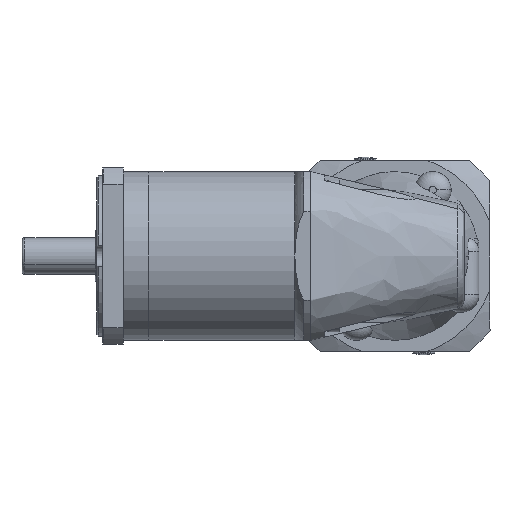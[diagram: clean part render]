
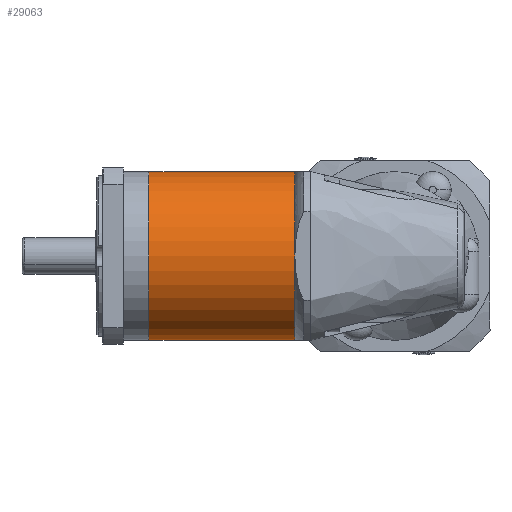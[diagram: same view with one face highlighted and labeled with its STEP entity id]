
A CAD part, front view. The second image highlights one B-rep face of the part: STEP entity #29063.
In plain terms, the highlighted cylindrical face has radius 57.5 mm (diameter 115 mm), a partial arc.
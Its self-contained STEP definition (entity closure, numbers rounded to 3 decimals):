
#216 = LINE ( 'NONE', #34504, #13597 ) ;
#3079 = VERTEX_POINT ( 'NONE', #37873 ) ;
#6556 = CIRCLE ( 'NONE', #39675, 57.5 ) ;
#6986 = DIRECTION ( 'NONE',  ( 1., 0., 0. ) ) ;
#8694 = VERTEX_POINT ( 'NONE', #15283 ) ;
#8787 = EDGE_CURVE ( 'NONE', #33205, #20903, #34288, .T. ) ;
#9399 = EDGE_LOOP ( 'NONE', ( #17016, #30756, #12023, #16633 ) ) ;
#9412 = DIRECTION ( 'NONE',  ( -1., 0., 0. ) ) ;
#10463 = CARTESIAN_POINT ( 'NONE',  ( 35.5, 0., 57.5 ) ) ;
#12023 = ORIENTED_EDGE ( 'NONE', *, *, #33929, .T. ) ;
#13499 = CARTESIAN_POINT ( 'NONE',  ( 135., 0., 0. ) ) ;
#13597 = VECTOR ( 'NONE', #34774, 1000. ) ;
#14745 = CARTESIAN_POINT ( 'NONE',  ( 35.5, 0., 0. ) ) ;
#15283 = CARTESIAN_POINT ( 'NONE',  ( 35.5, 0., -57.5 ) ) ;
#16633 = ORIENTED_EDGE ( 'NONE', *, *, #17227, .F. ) ;
#16947 = CYLINDRICAL_SURFACE ( 'NONE', #19697, 57.5 ) ;
#17016 = ORIENTED_EDGE ( 'NONE', *, *, #24608, .F. ) ;
#17227 = EDGE_CURVE ( 'NONE', #3079, #8694, #216, .T. ) ;
#17659 = DIRECTION ( 'NONE',  ( 1., 0., 0. ) ) ;
#19697 = AXIS2_PLACEMENT_3D ( 'NONE', #34605, #9412, #34052 ) ;
#20903 = VERTEX_POINT ( 'NONE', #10463 ) ;
#21129 = DIRECTION ( 'NONE',  ( 0., 0., 1. ) ) ;
#22792 = DIRECTION ( 'NONE',  ( 0., 0., 1. ) ) ;
#23297 = AXIS2_PLACEMENT_3D ( 'NONE', #14745, #17659, #21129 ) ;
#24608 = EDGE_CURVE ( 'NONE', #33205, #3079, #6556, .T. ) ;
#26352 = CIRCLE ( 'NONE', #23297, 57.5 ) ;
#27881 = FACE_OUTER_BOUND ( 'NONE', #9399, .T. ) ;
#28490 = CARTESIAN_POINT ( 'NONE',  ( 135., 0., 57.5 ) ) ;
#29063 = ADVANCED_FACE ( 'NONE', ( #27881 ), #16947, .T. ) ;
#29285 = VECTOR ( 'NONE', #31758, 1000. ) ;
#30756 = ORIENTED_EDGE ( 'NONE', *, *, #8787, .T. ) ;
#31758 = DIRECTION ( 'NONE',  ( -1., 0., 0. ) ) ;
#33205 = VERTEX_POINT ( 'NONE', #35583 ) ;
#33929 = EDGE_CURVE ( 'NONE', #20903, #8694, #26352, .T. ) ;
#34052 = DIRECTION ( 'NONE',  ( 0., 0., -1. ) ) ;
#34288 = LINE ( 'NONE', #28490, #29285 ) ;
#34504 = CARTESIAN_POINT ( 'NONE',  ( 135., 0., -57.5 ) ) ;
#34605 = CARTESIAN_POINT ( 'NONE',  ( 135., 0., 0. ) ) ;
#34774 = DIRECTION ( 'NONE',  ( -1., 0., 0. ) ) ;
#35583 = CARTESIAN_POINT ( 'NONE',  ( 135., 0., 57.5 ) ) ;
#37873 = CARTESIAN_POINT ( 'NONE',  ( 135., 0., -57.5 ) ) ;
#39675 = AXIS2_PLACEMENT_3D ( 'NONE', #13499, #6986, #22792 ) ;
